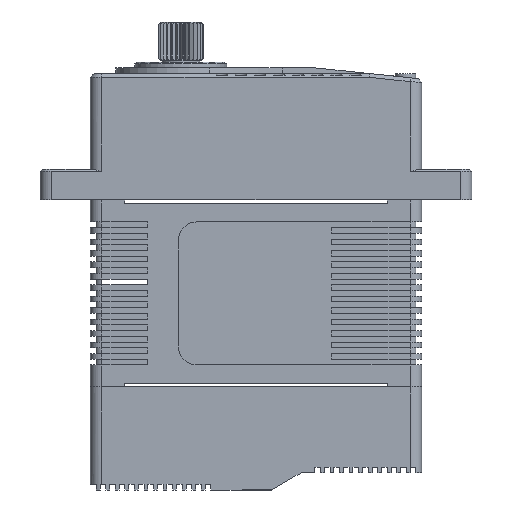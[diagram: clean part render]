
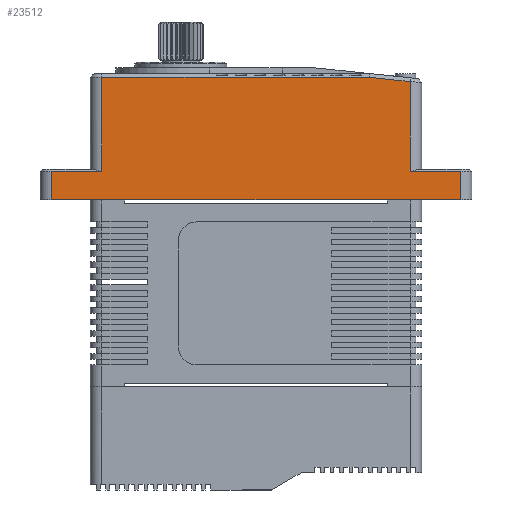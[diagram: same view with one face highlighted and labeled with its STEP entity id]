
A CAD part, front view. The second image highlights one B-rep face of the part: STEP entity #23512.
In plain terms, the highlighted planar face has unit normal (0, -1, 0).
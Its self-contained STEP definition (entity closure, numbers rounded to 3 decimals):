
#179 = EDGE_LOOP ( 'NONE', ( #5063, #42594, #15184, #15013, #20247, #5591, #5122, #41349, #11441 ) ) ;
#187 = EDGE_CURVE ( 'NONE', #8726, #36130, #19341, .T. ) ;
#484 = CARTESIAN_POINT ( 'NONE',  ( -10.353, -22.896, 22.2 ) ) ;
#2276 = EDGE_CURVE ( 'NONE', #43018, #20524, #8031, .T. ) ;
#3078 = LINE ( 'NONE', #13705, #36349 ) ;
#3608 = AXIS2_PLACEMENT_3D ( 'NONE', #42470, #15142, #35130 ) ;
#4597 = CARTESIAN_POINT ( 'NONE',  ( -10.353, -22.896, 45.686 ) ) ;
#4868 = CARTESIAN_POINT ( 'NONE',  ( -104.238, -22.896, 14.7 ) ) ;
#5054 = LINE ( 'NONE', #19695, #40921 ) ;
#5063 = ORIENTED_EDGE ( 'NONE', *, *, #24429, .F. ) ;
#5122 = ORIENTED_EDGE ( 'NONE', *, *, #2276, .F. ) ;
#5254 = LINE ( 'NONE', #6047, #39569 ) ;
#5591 = ORIENTED_EDGE ( 'NONE', *, *, #24249, .F. ) ;
#6047 = CARTESIAN_POINT ( 'NONE',  ( -86.438, -22.896, 46.8 ) ) ;
#6419 = VECTOR ( 'NONE', #40523, 1000. ) ;
#6789 = LINE ( 'NONE', #37142, #8963 ) ;
#7161 = DIRECTION ( 'NONE',  ( 0., 0., -1. ) ) ;
#8031 = LINE ( 'NONE', #19633, #27796 ) ;
#8726 = VERTEX_POINT ( 'NONE', #484 ) ;
#8930 = DIRECTION ( 'NONE',  ( 1., 0., 0. ) ) ;
#8963 = VECTOR ( 'NONE', #19849, 1000. ) ;
#9249 = VECTOR ( 'NONE', #11970, 1000. ) ;
#11441 = ORIENTED_EDGE ( 'NONE', *, *, #22534, .F. ) ;
#11821 = VECTOR ( 'NONE', #30306, 1000. ) ;
#11970 = DIRECTION ( 'NONE',  ( 0.995, 0., -0.104 ) ) ;
#13705 = CARTESIAN_POINT ( 'NONE',  ( 2.762, -22.896, 15.7 ) ) ;
#15013 = ORIENTED_EDGE ( 'NONE', *, *, #22880, .F. ) ;
#15142 = DIRECTION ( 'NONE',  ( 0., 1., 0. ) ) ;
#15184 = ORIENTED_EDGE ( 'NONE', *, *, #34374, .F. ) ;
#18226 = LINE ( 'NONE', #39949, #6419 ) ;
#18547 = CARTESIAN_POINT ( 'NONE',  ( -21.042, -22.896, 46.8 ) ) ;
#19341 = LINE ( 'NONE', #44113, #11821 ) ;
#19447 = VERTEX_POINT ( 'NONE', #4868 ) ;
#19633 = CARTESIAN_POINT ( 'NONE',  ( -86.438, -22.896, 22.2 ) ) ;
#19695 = CARTESIAN_POINT ( 'NONE',  ( -104.238, -22.896, 15.7 ) ) ;
#19849 = DIRECTION ( 'NONE',  ( 0., 0., 1. ) ) ;
#20247 = ORIENTED_EDGE ( 'NONE', *, *, #32041, .F. ) ;
#20524 = VERTEX_POINT ( 'NONE', #34876 ) ;
#21269 = CARTESIAN_POINT ( 'NONE',  ( -104.238, -22.896, 22.2 ) ) ;
#21372 = FACE_OUTER_BOUND ( 'NONE', #179, .T. ) ;
#21728 = PLANE ( 'NONE',  #3608 ) ;
#22534 = EDGE_CURVE ( 'NONE', #44433, #19447, #34535, .T. ) ;
#22880 = EDGE_CURVE ( 'NONE', #37303, #39671, #34447, .T. ) ;
#23512 = ADVANCED_FACE ( 'NONE', ( #21372 ), #21728, .F. ) ;
#24249 = EDGE_CURVE ( 'NONE', #20524, #40144, #6789, .T. ) ;
#24429 = EDGE_CURVE ( 'NONE', #36130, #44433, #3078, .T. ) ;
#24531 = DIRECTION ( 'NONE',  ( -1., 0., 0. ) ) ;
#26677 = CARTESIAN_POINT ( 'NONE',  ( 2.762, -22.896, 22.2 ) ) ;
#27796 = VECTOR ( 'NONE', #8930, 1000. ) ;
#30171 = DIRECTION ( 'NONE',  ( 0., 0., 1. ) ) ;
#30306 = DIRECTION ( 'NONE',  ( 1., 0., 0. ) ) ;
#31158 = CARTESIAN_POINT ( 'NONE',  ( -86.438, -22.896, 14.7 ) ) ;
#31656 = CARTESIAN_POINT ( 'NONE',  ( -91.123, -22.896, 46.8 ) ) ;
#32041 = EDGE_CURVE ( 'NONE', #40144, #37303, #5254, .T. ) ;
#32819 = CARTESIAN_POINT ( 'NONE',  ( -21.042, -22.896, 46.8 ) ) ;
#33179 = EDGE_CURVE ( 'NONE', #19447, #43018, #5054, .T. ) ;
#33442 = VECTOR ( 'NONE', #24531, 1000. ) ;
#34374 = EDGE_CURVE ( 'NONE', #39671, #8726, #18226, .T. ) ;
#34447 = LINE ( 'NONE', #32819, #9249 ) ;
#34535 = LINE ( 'NONE', #31158, #33442 ) ;
#34876 = CARTESIAN_POINT ( 'NONE',  ( -91.123, -22.896, 22.2 ) ) ;
#35130 = DIRECTION ( 'NONE',  ( -1., 0., 0. ) ) ;
#36130 = VERTEX_POINT ( 'NONE', #26677 ) ;
#36349 = VECTOR ( 'NONE', #7161, 1000. ) ;
#36624 = DIRECTION ( 'NONE',  ( 1., 0., 0. ) ) ;
#37142 = CARTESIAN_POINT ( 'NONE',  ( -91.123, -22.896, 15.7 ) ) ;
#37303 = VERTEX_POINT ( 'NONE', #18547 ) ;
#39569 = VECTOR ( 'NONE', #36624, 1000. ) ;
#39671 = VERTEX_POINT ( 'NONE', #4597 ) ;
#39949 = CARTESIAN_POINT ( 'NONE',  ( -10.353, -22.896, 15.7 ) ) ;
#40144 = VERTEX_POINT ( 'NONE', #31656 ) ;
#40523 = DIRECTION ( 'NONE',  ( 0., 0., -1. ) ) ;
#40921 = VECTOR ( 'NONE', #30171, 1000. ) ;
#41349 = ORIENTED_EDGE ( 'NONE', *, *, #33179, .F. ) ;
#42004 = CARTESIAN_POINT ( 'NONE',  ( 2.762, -22.896, 14.7 ) ) ;
#42470 = CARTESIAN_POINT ( 'NONE',  ( -86.438, -22.896, 15.7 ) ) ;
#42594 = ORIENTED_EDGE ( 'NONE', *, *, #187, .F. ) ;
#43018 = VERTEX_POINT ( 'NONE', #21269 ) ;
#44113 = CARTESIAN_POINT ( 'NONE',  ( -86.438, -22.896, 22.2 ) ) ;
#44433 = VERTEX_POINT ( 'NONE', #42004 ) ;
